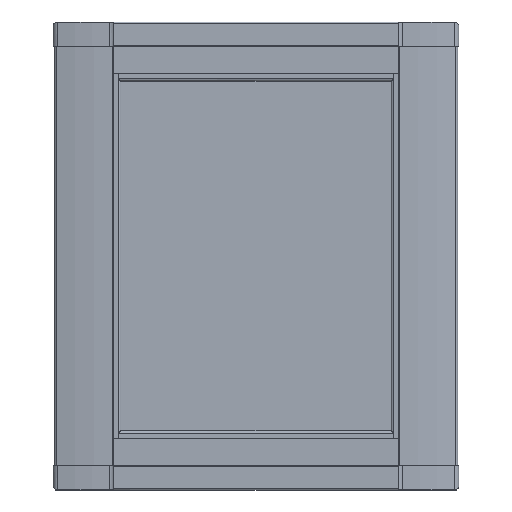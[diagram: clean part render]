
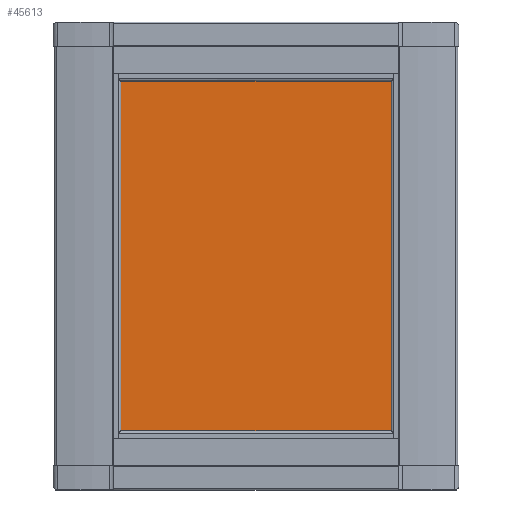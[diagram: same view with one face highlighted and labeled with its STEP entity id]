
A CAD part, top view. The second image highlights one B-rep face of the part: STEP entity #45613.
In plain terms, the highlighted planar face has unit normal (0, 0, 1).
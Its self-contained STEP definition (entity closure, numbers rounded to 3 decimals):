
#103 = CARTESIAN_POINT ( 'NONE',  ( 0., -30., 170.9 ) ) ;
#1807 = DIRECTION ( 'NONE',  ( 0., 0., 1. ) ) ;
#2209 = VECTOR ( 'NONE', #20850, 1000. ) ;
#3921 = DIRECTION ( 'NONE',  ( -1., 0., 0. ) ) ;
#4020 = ORIENTED_EDGE ( 'NONE', *, *, #6827, .T. ) ;
#6661 = VECTOR ( 'NONE', #3921, 1000. ) ;
#6827 = EDGE_CURVE ( 'NONE', #19350, #32637, #31802, .T. ) ;
#7352 = CARTESIAN_POINT ( 'NONE',  ( -132., -199.5, 170.9 ) ) ;
#11579 = ORIENTED_EDGE ( 'NONE', *, *, #17385, .T. ) ;
#12207 = LINE ( 'NONE', #16882, #2209 ) ;
#14145 = AXIS2_PLACEMENT_3D ( 'NONE', #24514, #1807, #28341 ) ;
#14636 = ORIENTED_EDGE ( 'NONE', *, *, #15671, .T. ) ;
#15671 = EDGE_CURVE ( 'NONE', #32895, #19350, #12207, .T. ) ;
#16882 = CARTESIAN_POINT ( 'NONE',  ( 0., -369., 170.9 ) ) ;
#17385 = EDGE_CURVE ( 'NONE', #32637, #19068, #35818, .T. ) ;
#19068 = VERTEX_POINT ( 'NONE', #47351 ) ;
#19350 = VERTEX_POINT ( 'NONE', #46328 ) ;
#19409 = EDGE_LOOP ( 'NONE', ( #4020, #11579, #31595, #14636 ) ) ;
#20850 = DIRECTION ( 'NONE',  ( 1., 0., 0. ) ) ;
#22349 = DIRECTION ( 'NONE',  ( 0., 1., 0. ) ) ;
#22581 = VECTOR ( 'NONE', #30153, 1000. ) ;
#24514 = CARTESIAN_POINT ( 'NONE',  ( 0., -199.5, 170.9 ) ) ;
#28341 = DIRECTION ( 'NONE',  ( 0., -1., 0. ) ) ;
#28843 = CARTESIAN_POINT ( 'NONE',  ( -132., -369., 170.9 ) ) ;
#30141 = FACE_OUTER_BOUND ( 'NONE', #19409, .T. ) ;
#30153 = DIRECTION ( 'NONE',  ( 0., -1., 0. ) ) ;
#31492 = LINE ( 'NONE', #7352, #22581 ) ;
#31595 = ORIENTED_EDGE ( 'NONE', *, *, #33070, .T. ) ;
#31802 = LINE ( 'NONE', #45080, #33011 ) ;
#32637 = VERTEX_POINT ( 'NONE', #45770 ) ;
#32895 = VERTEX_POINT ( 'NONE', #28843 ) ;
#33011 = VECTOR ( 'NONE', #22349, 1000. ) ;
#33070 = EDGE_CURVE ( 'NONE', #19068, #32895, #31492, .T. ) ;
#35818 = LINE ( 'NONE', #103, #6661 ) ;
#39489 = PLANE ( 'NONE',  #14145 ) ;
#45080 = CARTESIAN_POINT ( 'NONE',  ( 132., -199.5, 170.9 ) ) ;
#45613 = ADVANCED_FACE ( 'NONE', ( #30141 ), #39489, .T. ) ;
#45770 = CARTESIAN_POINT ( 'NONE',  ( 132., -30., 170.9 ) ) ;
#46328 = CARTESIAN_POINT ( 'NONE',  ( 132., -369., 170.9 ) ) ;
#47351 = CARTESIAN_POINT ( 'NONE',  ( -132., -30., 170.9 ) ) ;
